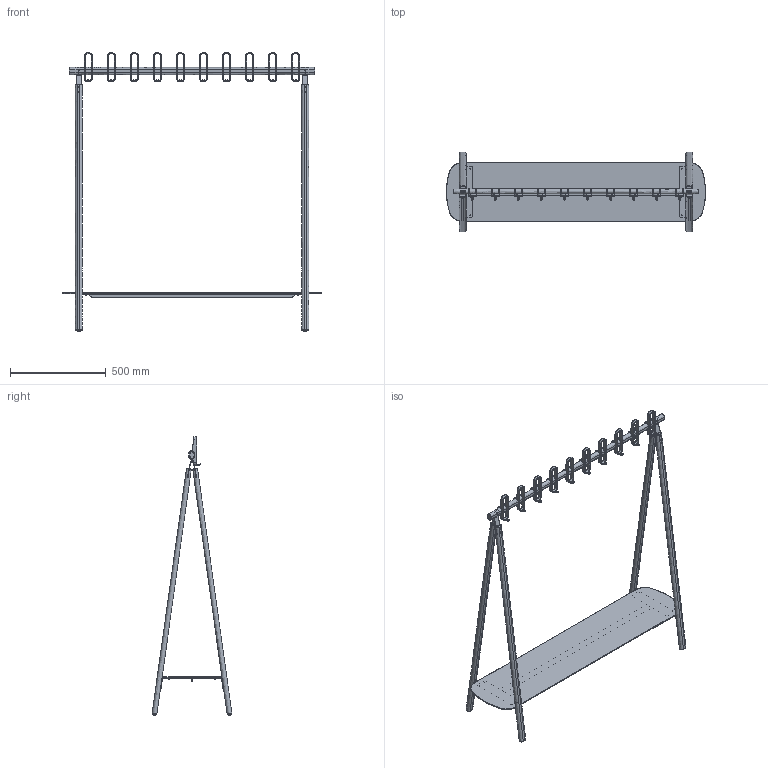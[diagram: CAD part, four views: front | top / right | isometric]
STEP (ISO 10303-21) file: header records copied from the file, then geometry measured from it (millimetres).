
FILE_DESCRIPTION(/* description */ (''),/* implementation_level */ '2;1');
FILE_NAME(/* name */ 'CG7ZQ0~6',/* time_stamp */ '2021-11-02T17:02:24+01:00',/* author */ (''),/* organization */ (''),/* preprocessor_version */ 'ST-DEVELOPER v16.5',/* originating_system */ '',/* authorisation */ '');
FILE_SCHEMA (('AUTOMOTIVE_DESIGN'));
Products named in the file (1): Document
Bounding box: 1349.84 x 415.97 x 1450 mm (x, y, z)
Volume: 7799029.7 mm3; surface area: 1943197.4 mm2
Topology: 55 solids, 55 shells, 2004 faces, 4730 edges, 2846 vertices
Faces by surface type: bspline 1634, plane 370
Entity records: 74689 total; most frequent: CARTESIAN_POINT 48718, ORIENTED_EDGE 9404, EDGE_CURVE 4702, VERTEX_POINT 2846, EDGE_LOOP 2190, ADVANCED_FACE 2004, FACE_OUTER_BOUND 2004, B_SPLINE_CURVE_WITH_KNOTS 873
